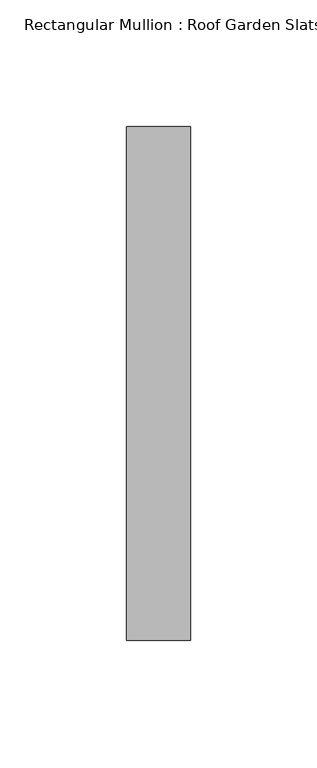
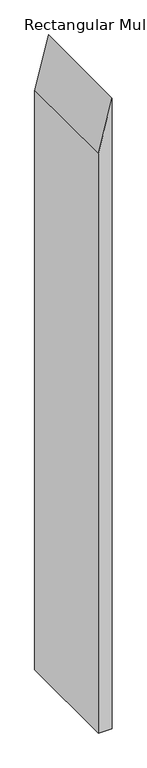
"""IFC4 building model written with IfcOpenShell, lengths in millimetres: member geometry, Rectangular Mullion : Roof Garden Slats."""

from ifc_helpers import new_model, si_unit, frame, origin, place, context, project, spatial, polyline, outline, extrude, source, transform, mapped, element, save


def rectangular_mullion_roof_garden_slats_5d7450e1(model_context):
    return source(origin(), model_context, "Body", "SweptSolid", [
        extrude(outline(polyline([(0.0, 0.0), (-99.3925899, -25.4), (-1226.802402, -25.4), (-1226.802402, 0.0), (0.0, 0.0)])), frame((0.0, -63.5, 0.0), z_axis=(0.0, 1.0, 0.0), x_axis=(0.0, 0.0, 1.0)), (0.0, 0.0, 1.0), 203.2),
    ])


if __name__ == "__main__":
    model = new_model("IFC4")
    model_context = context("Model", 3, world=origin())
    ifc_project = project(units=[si_unit("LENGTHUNIT", "METRE", prefix="MILLI")], contexts=[model_context])
    site = spatial("IfcSite", under=ifc_project)
    building = spatial("IfcBuilding", under=site)
    placement = place(None, origin())
    rectangular_mullion_roof_garden_slats_shape = rectangular_mullion_roof_garden_slats_5d7450e1(model_context)
    element("IfcMember", 1, ObjectType="Rectangular Mullion : Roof Garden Slats", at=placement, inside=building, context=model_context, shape_type="MappedRepresentation", body=[
        mapped(rectangular_mullion_roof_garden_slats_shape, transform((0.0, 0.0, 0.0), x_axis=(1.0, 0.0, 0.0), y_axis=(0.0, 1.0, 0.0), z_axis=(0.0, 0.0, 1.0))),
    ])
    save(model, "model.ifc")
